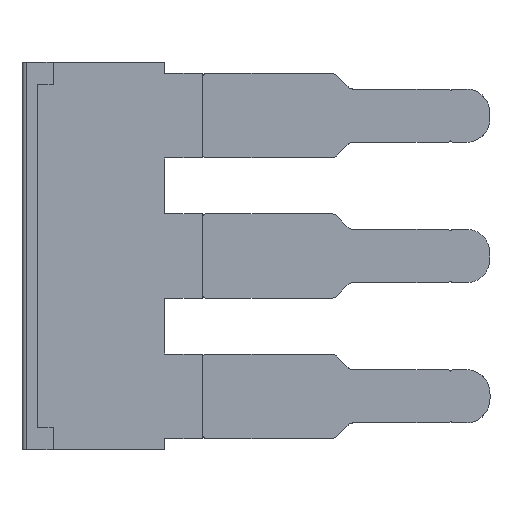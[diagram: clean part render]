
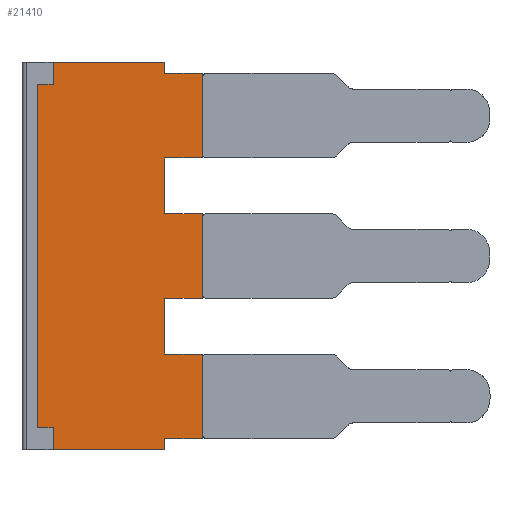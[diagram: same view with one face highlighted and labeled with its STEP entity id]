
A CAD part, left-side view. The second image highlights one B-rep face of the part: STEP entity #21410.
In plain terms, the highlighted planar face has unit normal (-1, 0, 0).
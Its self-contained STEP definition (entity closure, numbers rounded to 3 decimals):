
#1980=CARTESIAN_POINT('',(-8.9,31.8,44.55));
#1990=DIRECTION('',(0.,0.,1.));
#2000=VECTOR('',#1990,1.);
#2010=LINE('',#1980,#2000);
#2020=CARTESIAN_POINT('',(-8.9,31.8,-10.95));
#2030=VERTEX_POINT('',#2020);
#2040=CARTESIAN_POINT('',(-8.9,31.8,
-9.95));
#2050=VERTEX_POINT('',#2040);
#2060=EDGE_CURVE('',#2030,#2050,#2010,.T.);
#5190=CARTESIAN_POINT('',(-8.9,26.8,
-4.15));
#5200=VERTEX_POINT('',#5190);
#5350=CARTESIAN_POINT('',(-8.9,26.8,
-6.65));
#5360=VERTEX_POINT('',#5350);
#5390=CARTESIAN_POINT('',(-8.9,26.8,43.65));
#5400=DIRECTION('',(0.,0.,1.));
#5410=VECTOR('',#5400,1.);
#5420=LINE('',#5390,#5410);
#5430=EDGE_CURVE('',#5360,#5200,#5420,.T.);
#6200=CARTESIAN_POINT('',(-8.9,25.1,-6.65));
#6210=VERTEX_POINT('',#6200);
#6240=CARTESIAN_POINT('',(-8.9,33.2,
-6.65));
#6250=DIRECTION('',(0.,1.,0.));
#6260=VECTOR('',#6250,1.);
#6270=LINE('',#6240,#6260);
#6280=EDGE_CURVE('',#6210,#5360,#6270,.T.);
#7480=CARTESIAN_POINT('',(-8.9,26.8,-10.15));
#7490=DIRECTION('',(0.,0.,-1.));
#7500=VECTOR('',#7490,1.);
#7510=LINE('',#7480,#7500);
#7520=CARTESIAN_POINT('',(-8.9,26.8,-10.45));
#7530=VERTEX_POINT('',#7520);
#7540=CARTESIAN_POINT('',(-8.9,26.8,-10.95));
#7550=VERTEX_POINT('',#7540);
#7560=EDGE_CURVE('',#7530,#7550,#7510,.T.);
#8290=CARTESIAN_POINT('',(-8.9,33.2,-10.95));
#8300=DIRECTION('',(0.,-1.,0.));
#8310=VECTOR('',#8300,1.);
#8320=LINE('',#8290,#8310);
#8330=EDGE_CURVE('',#2030,#7550,#8320,.T.);
#10310=CARTESIAN_POINT('',(-8.9,33.2,-10.45));
#10320=DIRECTION('',(0.,1.,0.));
#10330=VECTOR('',#10320,1.);
#10340=LINE('',#10310,#10330);
#10350=CARTESIAN_POINT('',(-8.9,25.1,-10.45));
#10360=VERTEX_POINT('',#10350);
#10370=EDGE_CURVE('',#10360,#7530,#10340,.T.);
#12420=CARTESIAN_POINT('',(-8.9,33.2,
-9.95));
#12430=DIRECTION('',(0.,-1.,0.));
#12440=VECTOR('',#12430,1.);
#12450=LINE('',#12420,#12440);
#12460=CARTESIAN_POINT('',(-8.9,32.5,
-9.95));
#12470=VERTEX_POINT('',#12460);
#12480=EDGE_CURVE('',#12470,#2050,#12450,.T.);
#13510=CARTESIAN_POINT('',(-8.9,25.1,44.55));
#13520=DIRECTION('',(0.,0.,1.));
#13530=VECTOR('',#13520,1.);
#13540=LINE('',#13510,#13530);
#13550=EDGE_CURVE('',#10360,#6210,#13540,.T.);
#17370=CARTESIAN_POINT('',(-8.9,26.8,6.45));
#17380=VERTEX_POINT('',#17370);
#17410=CARTESIAN_POINT('',(-8.9,33.2,6.45));
#17420=DIRECTION('',(0.,-1.,0.));
#17430=VECTOR('',#17420,1.);
#17440=LINE('',#17410,#17430);
#17450=CARTESIAN_POINT('',(-8.9,31.8,6.45));
#17460=VERTEX_POINT('',#17450);
#17470=EDGE_CURVE('',#17460,#17380,#17440,.T.);
#17840=CARTESIAN_POINT('',(-8.9,31.8,
5.45));
#17850=VERTEX_POINT('',#17840);
#17900=CARTESIAN_POINT('',(-8.9,31.8,-49.05));
#17910=DIRECTION('',(0.,0.,-1.));
#17920=VECTOR('',#17910,1.);
#17930=LINE('',#17900,#17920);
#17940=EDGE_CURVE('',#17460,#17850,#17930,.T.);
#18150=CARTESIAN_POINT('',(-8.9,32.5,
5.45));
#18160=VERTEX_POINT('',#18150);
#18210=CARTESIAN_POINT('',(-8.9,33.2,
5.45));
#18220=DIRECTION('',(0.,-1.,0.));
#18230=VECTOR('',#18220,1.);
#18240=LINE('',#18210,#18230);
#18250=EDGE_CURVE('',#18160,#17850,#18240,.T.);
#18450=CARTESIAN_POINT('',(-8.9,32.5,-49.05));
#18460=DIRECTION('',(0.,0.,1.));
#18470=VECTOR('',#18460,1.);
#18480=LINE('',#18450,#18470);
#18490=EDGE_CURVE('',#12470,#18160,#18480,.T.);
#20640=CARTESIAN_POINT('',(-8.9,33.2,-53.35));
#20650=DIRECTION('',(-1.,-0.,0.));
#20660=DIRECTION('',(0.,0.,-1.));
#20670=AXIS2_PLACEMENT_3D('',#20640,#20650,#20660);
#20680=PLANE('',#20670);
#20690=ORIENTED_EDGE('',*,*,#17940,.T.);
#20700=ORIENTED_EDGE('',*,*,#17470,.F.);
#20710=CARTESIAN_POINT('',(-8.9,26.8,5.65));
#20720=DIRECTION('',(0.,0.,1.));
#20730=VECTOR('',#20720,1.);
#20740=LINE('',#20710,#20730);
#20750=CARTESIAN_POINT('',(-8.9,26.8,
5.95));
#20760=VERTEX_POINT('',#20750);
#20770=EDGE_CURVE('',#20760,#17380,#20740,.T.);
#20780=ORIENTED_EDGE('',*,*,#20770,.T.);
#20790=CARTESIAN_POINT('',(-8.9,33.2,
5.95));
#20800=DIRECTION('',(0.,1.,0.));
#20810=VECTOR('',#20800,1.);
#20820=LINE('',#20790,#20810);
#20830=CARTESIAN_POINT('',(-8.9,25.1,
5.95));
#20840=VERTEX_POINT('',#20830);
#20850=EDGE_CURVE('',#20840,#20760,#20820,.T.);
#20860=ORIENTED_EDGE('',*,*,#20850,.T.);
#20870=CARTESIAN_POINT('',(-8.9,25.1,-49.05));
#20880=DIRECTION('',(0.,0.,-1.));
#20890=VECTOR('',#20880,1.);
#20900=LINE('',#20870,#20890);
#20910=CARTESIAN_POINT('',(-8.9,25.1,2.15));
#20920=VERTEX_POINT('',#20910);
#20930=EDGE_CURVE('',#20840,#20920,#20900,.T.);
#20940=ORIENTED_EDGE('',*,*,#20930,.F.);
#20950=CARTESIAN_POINT('',(-8.9,33.2,2.15));
#20960=DIRECTION('',(0.,1.,0.));
#20970=VECTOR('',#20960,1.);
#20980=LINE('',#20950,#20970);
#20990=CARTESIAN_POINT('',(-8.9,26.8,2.15));
#21000=VERTEX_POINT('',#20990);
#21010=EDGE_CURVE('',#20920,#21000,#20980,.T.);
#21020=ORIENTED_EDGE('',*,*,#21010,.F.);
#21030=CARTESIAN_POINT('',(-8.9,26.8,-48.15));
#21040=DIRECTION('',(0.,0.,-1.));
#21050=VECTOR('',#21040,1.);
#21060=LINE('',#21030,#21050);
#21070=CARTESIAN_POINT('',(-8.9,26.8,
-0.35));
#21080=VERTEX_POINT('',#21070);
#21090=EDGE_CURVE('',#21000,#21080,#21060,.T.);
#21100=ORIENTED_EDGE('',*,*,#21090,.F.);
#21110=CARTESIAN_POINT('',(-8.9,33.2,
-0.35));
#21120=DIRECTION('',(0.,-1.,0.));
#21130=VECTOR('',#21120,1.);
#21140=LINE('',#21110,#21130);
#21150=CARTESIAN_POINT('',(-8.9,25.1,-0.35));
#21160=VERTEX_POINT('',#21150);
#21170=EDGE_CURVE('',#21080,#21160,#21140,.T.);
#21180=ORIENTED_EDGE('',*,*,#21170,.F.);
#21190=CARTESIAN_POINT('',(-8.9,25.1,-4.15));
#21200=VERTEX_POINT('',#21190);
#21210=EDGE_CURVE('',#21200,#21160,#13540,.T.);
#21220=ORIENTED_EDGE('',*,*,#21210,.T.);
#21230=CARTESIAN_POINT('',(-8.9,33.2,
-4.15));
#21240=DIRECTION('',(0.,1.,0.));
#21250=VECTOR('',#21240,1.);
#21260=LINE('',#21230,#21250);
#21270=EDGE_CURVE('',#21200,#5200,#21260,.T.);
#21280=ORIENTED_EDGE('',*,*,#21270,.F.);
#21290=ORIENTED_EDGE('',*,*,#5430,.T.);
#21300=ORIENTED_EDGE('',*,*,#6280,.T.);
#21310=ORIENTED_EDGE('',*,*,#13550,.T.);
#21320=ORIENTED_EDGE('',*,*,#10370,.F.);
#21330=ORIENTED_EDGE('',*,*,#7560,.F.);
#21340=ORIENTED_EDGE('',*,*,#8330,.T.);
#21350=ORIENTED_EDGE('',*,*,#2060,.F.);
#21360=ORIENTED_EDGE('',*,*,#12480,.T.);
#21370=ORIENTED_EDGE('',*,*,#18490,.F.);
#21380=ORIENTED_EDGE('',*,*,#18250,.F.);
#21390=EDGE_LOOP('',(#21380,#21370,#21360,#21350,#21340,#21330,#21320,
#21310,#21300,#21290,#21280,#21220,#21180,#21100,#21020,#20940,#20860,
#20780,#20700,#20690));
#21400=FACE_OUTER_BOUND('',#21390,.T.);
#21410=ADVANCED_FACE('',(#21400),#20680,.T.);
